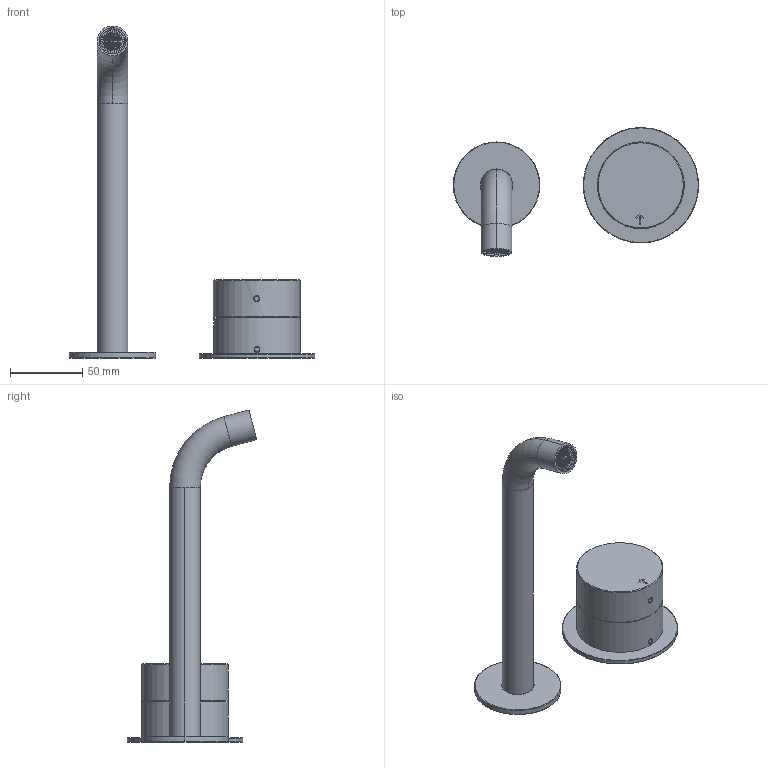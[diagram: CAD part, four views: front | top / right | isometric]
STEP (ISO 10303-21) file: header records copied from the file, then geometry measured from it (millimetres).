
FILE_DESCRIPTION((''),'2;1');
FILE_NAME('40000L513B000000_SW0001','2023-09-27T13:59:27',('matteo.follador'),(''),'CREO PARAMETRIC BY PTC INC, 2022424','CREO PARAMETRIC BY PTC INC, 2022424','');
FILE_SCHEMA(('AUTOMOTIVE_DESIGN { 1 0 10303 214 1 1 1 1 }'));
Length unit declared in the file: millimetre
Products named in the file (1): 40000L513B000000_SW0001
Bounding box: 170 x 89.76 x 230 mm (x, y, z)
Volume: 230830 mm3; surface area: 59706.2 mm2
Topology: 2 solids, 3 shells, 545 faces, 1182 edges, 777 vertices
Faces by surface type: cylinder 291, plane 194, cone 26, bspline 26, torus 8
Entity records: 22405 total; most frequent: CARTESIAN_POINT 5970, DIRECTION 2856, ORIENTED_EDGE 2360, AXIS2_PLACEMENT_3D 1195, EDGE_CURVE 1180, VERTEX_POINT 777, EDGE_LOOP 685, CIRCLE 666
